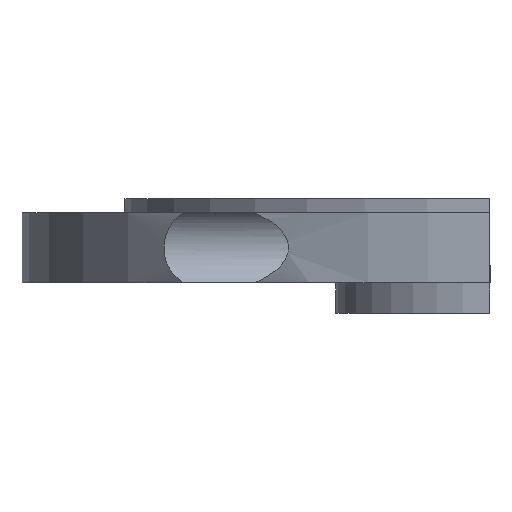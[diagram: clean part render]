
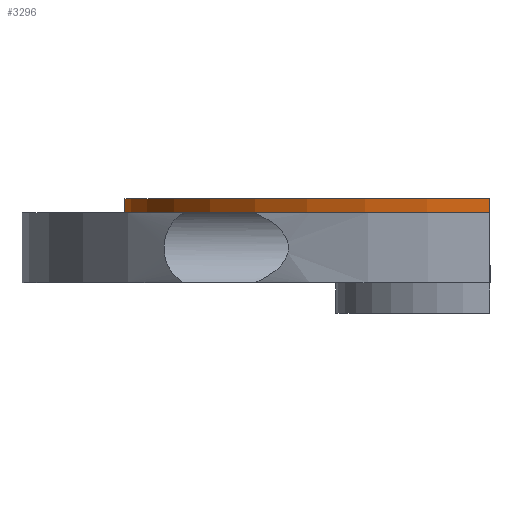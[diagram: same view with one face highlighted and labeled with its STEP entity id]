
A CAD part, front view. The second image highlights one B-rep face of the part: STEP entity #3296.
In plain terms, the highlighted cylindrical face has radius 15.6 mm (diameter 31.2 mm), a partial arc.
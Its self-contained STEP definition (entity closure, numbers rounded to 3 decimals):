
#238 = PLANE('',#239);
#239 = AXIS2_PLACEMENT_3D('',#240,#241,#242);
#240 = CARTESIAN_POINT('',(0.,0.,0.));
#241 = DIRECTION('',(0.,0.,1.));
#242 = DIRECTION('',(1.,0.,-0.));
#269 = PLANE('',#270);
#270 = AXIS2_PLACEMENT_3D('',#271,#272,#273);
#271 = CARTESIAN_POINT('',(0.,-50.,-50.));
#272 = DIRECTION('',(1.,0.,0.));
#273 = DIRECTION('',(0.,0.,1.));
#510 = PLANE('',#511);
#511 = AXIS2_PLACEMENT_3D('',#512,#513,#514);
#512 = CARTESIAN_POINT('',(0.,-50.,-50.));
#513 = DIRECTION('',(1.,0.,0.));
#514 = DIRECTION('',(0.,0.,1.));
#734 = VERTEX_POINT('',#735);
#735 = CARTESIAN_POINT('',(0.,15.6,0.));
#754 = EDGE_CURVE('',#734,#755,#757,.T.);
#755 = VERTEX_POINT('',#756);
#756 = CARTESIAN_POINT('',(0.,15.6,0.6));
#757 = SURFACE_CURVE('',#758,(#762,#768),.PCURVE_S1.);
#758 = LINE('',#759,#760);
#759 = CARTESIAN_POINT('',(0.,15.6,0.));
#760 = VECTOR('',#761,1.);
#761 = DIRECTION('',(0.,0.,1.));
#762 = PCURVE('',#269,#763);
#763 = DEFINITIONAL_REPRESENTATION('',(#764),#767);
#764 = B_SPLINE_CURVE_WITH_KNOTS('',1,(#765,#766),.UNSPECIFIED.,.F.,.F.,
  (2,2),(0.,0.6),.PIECEWISE_BEZIER_KNOTS.);
#765 = CARTESIAN_POINT('',(50.,-65.6));
#766 = CARTESIAN_POINT('',(50.6,-65.6));
#767 = ( GEOMETRIC_REPRESENTATION_CONTEXT(2) 
PARAMETRIC_REPRESENTATION_CONTEXT() REPRESENTATION_CONTEXT('2D SPACE',''
  ) );
#768 = PCURVE('',#769,#774);
#769 = CYLINDRICAL_SURFACE('',#770,15.6);
#770 = AXIS2_PLACEMENT_3D('',#771,#772,#773);
#771 = CARTESIAN_POINT('',(0.,0.,0.));
#772 = DIRECTION('',(0.,0.,1.));
#773 = DIRECTION('',(1.,0.,-0.));
#774 = DEFINITIONAL_REPRESENTATION('',(#775),#778);
#775 = B_SPLINE_CURVE_WITH_KNOTS('',1,(#776,#777),.UNSPECIFIED.,.F.,.F.,
  (2,2),(0.,0.6),.PIECEWISE_BEZIER_KNOTS.);
#776 = CARTESIAN_POINT('',(1.571,0.));
#777 = CARTESIAN_POINT('',(1.571,0.6));
#778 = ( GEOMETRIC_REPRESENTATION_CONTEXT(2) 
PARAMETRIC_REPRESENTATION_CONTEXT() REPRESENTATION_CONTEXT('2D SPACE',''
  ) );
#795 = PLANE('',#796);
#796 = AXIS2_PLACEMENT_3D('',#797,#798,#799);
#797 = CARTESIAN_POINT('',(0.,0.,0.6));
#798 = DIRECTION('',(0.,0.,1.));
#799 = DIRECTION('',(1.,0.,-0.));
#1164 = VERTEX_POINT('',#1165);
#1165 = CARTESIAN_POINT('',(0.,-15.6,0.));
#1184 = EDGE_CURVE('',#734,#1164,#1185,.T.);
#1185 = SURFACE_CURVE('',#1186,(#1191,#1198),.PCURVE_S1.);
#1186 = CIRCLE('',#1187,15.6);
#1187 = AXIS2_PLACEMENT_3D('',#1188,#1189,#1190);
#1188 = CARTESIAN_POINT('',(0.,0.,0.));
#1189 = DIRECTION('',(0.,0.,1.));
#1190 = DIRECTION('',(1.,0.,-0.));
#1191 = PCURVE('',#238,#1192);
#1192 = DEFINITIONAL_REPRESENTATION('',(#1193),#1197);
#1193 = CIRCLE('',#1194,15.6);
#1194 = AXIS2_PLACEMENT_2D('',#1195,#1196);
#1195 = CARTESIAN_POINT('',(0.,0.));
#1196 = DIRECTION('',(1.,0.));
#1197 = ( GEOMETRIC_REPRESENTATION_CONTEXT(2) 
PARAMETRIC_REPRESENTATION_CONTEXT() REPRESENTATION_CONTEXT('2D SPACE',''
  ) );
#1198 = PCURVE('',#769,#1199);
#1199 = DEFINITIONAL_REPRESENTATION('',(#1200),#1204);
#1200 = LINE('',#1201,#1202);
#1201 = CARTESIAN_POINT('',(0.,0.));
#1202 = VECTOR('',#1203,1.);
#1203 = DIRECTION('',(1.,0.));
#1204 = ( GEOMETRIC_REPRESENTATION_CONTEXT(2) 
PARAMETRIC_REPRESENTATION_CONTEXT() REPRESENTATION_CONTEXT('2D SPACE',''
  ) );
#2254 = VERTEX_POINT('',#2255);
#2255 = CARTESIAN_POINT('',(0.,-15.6,0.6));
#2274 = EDGE_CURVE('',#1164,#2254,#2275,.T.);
#2275 = SURFACE_CURVE('',#2276,(#2280,#2286),.PCURVE_S1.);
#2276 = LINE('',#2277,#2278);
#2277 = CARTESIAN_POINT('',(0.,-15.6,0.));
#2278 = VECTOR('',#2279,1.);
#2279 = DIRECTION('',(0.,0.,1.));
#2280 = PCURVE('',#510,#2281);
#2281 = DEFINITIONAL_REPRESENTATION('',(#2282),#2285);
#2282 = B_SPLINE_CURVE_WITH_KNOTS('',1,(#2283,#2284),.UNSPECIFIED.,.F.,
  .F.,(2,2),(0.,0.6),.PIECEWISE_BEZIER_KNOTS.);
#2283 = CARTESIAN_POINT('',(50.,-34.4));
#2284 = CARTESIAN_POINT('',(50.6,-34.4));
#2285 = ( GEOMETRIC_REPRESENTATION_CONTEXT(2) 
PARAMETRIC_REPRESENTATION_CONTEXT() REPRESENTATION_CONTEXT('2D SPACE',''
  ) );
#2286 = PCURVE('',#769,#2287);
#2287 = DEFINITIONAL_REPRESENTATION('',(#2288),#2291);
#2288 = B_SPLINE_CURVE_WITH_KNOTS('',1,(#2289,#2290),.UNSPECIFIED.,.F.,
  .F.,(2,2),(0.,0.6),.PIECEWISE_BEZIER_KNOTS.);
#2289 = CARTESIAN_POINT('',(4.712,0.));
#2290 = CARTESIAN_POINT('',(4.712,0.6));
#2291 = ( GEOMETRIC_REPRESENTATION_CONTEXT(2) 
PARAMETRIC_REPRESENTATION_CONTEXT() REPRESENTATION_CONTEXT('2D SPACE',''
  ) );
#3101 = EDGE_CURVE('',#755,#2254,#3102,.T.);
#3102 = SURFACE_CURVE('',#3103,(#3108,#3115),.PCURVE_S1.);
#3103 = CIRCLE('',#3104,15.6);
#3104 = AXIS2_PLACEMENT_3D('',#3105,#3106,#3107);
#3105 = CARTESIAN_POINT('',(0.,0.,0.6));
#3106 = DIRECTION('',(0.,0.,1.));
#3107 = DIRECTION('',(1.,0.,-0.));
#3108 = PCURVE('',#795,#3109);
#3109 = DEFINITIONAL_REPRESENTATION('',(#3110),#3114);
#3110 = CIRCLE('',#3111,15.6);
#3111 = AXIS2_PLACEMENT_2D('',#3112,#3113);
#3112 = CARTESIAN_POINT('',(0.,0.));
#3113 = DIRECTION('',(1.,0.));
#3114 = ( GEOMETRIC_REPRESENTATION_CONTEXT(2) 
PARAMETRIC_REPRESENTATION_CONTEXT() REPRESENTATION_CONTEXT('2D SPACE',''
  ) );
#3115 = PCURVE('',#769,#3116);
#3116 = DEFINITIONAL_REPRESENTATION('',(#3117),#3121);
#3117 = LINE('',#3118,#3119);
#3118 = CARTESIAN_POINT('',(0.,0.6));
#3119 = VECTOR('',#3120,1.);
#3120 = DIRECTION('',(1.,0.));
#3121 = ( GEOMETRIC_REPRESENTATION_CONTEXT(2) 
PARAMETRIC_REPRESENTATION_CONTEXT() REPRESENTATION_CONTEXT('2D SPACE',''
  ) );
#3296 = ADVANCED_FACE('',(#3297),#769,.T.);
#3297 = FACE_BOUND('',#3298,.T.);
#3298 = EDGE_LOOP('',(#3299,#3300,#3301,#3302));
#3299 = ORIENTED_EDGE('',*,*,#3101,.F.);
#3300 = ORIENTED_EDGE('',*,*,#754,.F.);
#3301 = ORIENTED_EDGE('',*,*,#1184,.T.);
#3302 = ORIENTED_EDGE('',*,*,#2274,.T.);
